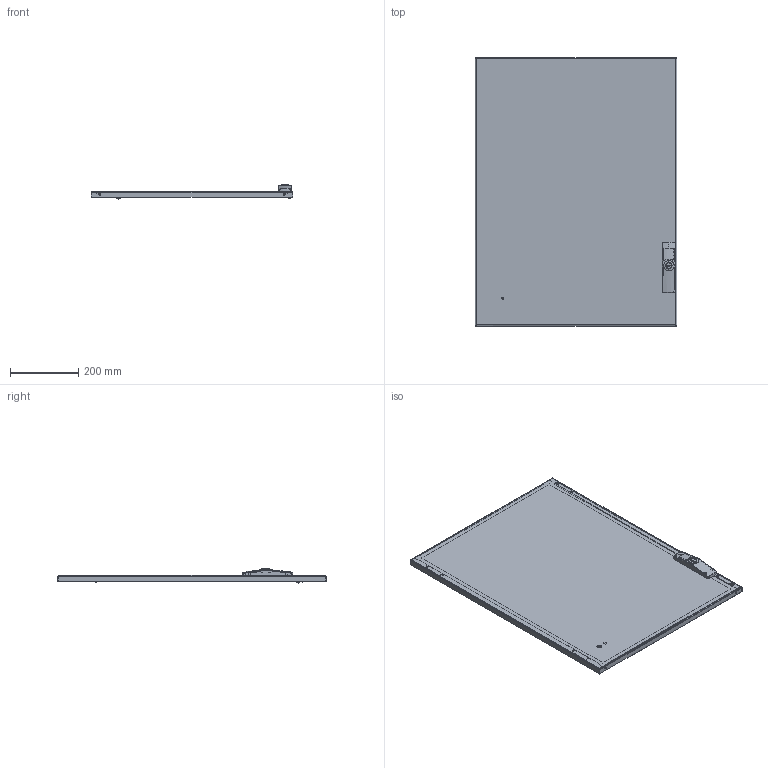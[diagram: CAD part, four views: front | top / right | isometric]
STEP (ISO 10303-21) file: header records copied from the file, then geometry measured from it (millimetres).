
FILE_DESCRIPTION (( 'STEP AP203' ), '1' );
FILE_NAME ('98420.step', '2013-04-04T08:33:41', ( '' ), ( '' ), 'SwSTEP 2.0', 'SolidWorks 2010', '' );
FILE_SCHEMA (( 'CONFIG_CONTROL_DESIGN' ));
Length unit declared in the file: inch
Products named in the file (27): 60127138_60127138; 87576035_87576035; 60127139_60127139; 11158132_THIKNESS .155 FIXED; 60127173_60127173; 60127172_60127172; 87931527_87931527; 60100041_60100041; 60127182_60127182; 60127208; 60127175_60127175; 60127216_60127216; 60127140_60127140; 60127277_60127277; 51232001_51232001; 98420; 11458936; 89065628; 60127101_60127101; 87931368_SLEEVE; 89065630_FIP GASKET; 60127424_60127424; 87798945_60127373; 60127207; 60127212; 11359495; 11359489_11359489
Assembly tree (34 placements, depth 4):
  98420
    11458936
      89065628
      60100041_60100041
        87931527_87931527
        87931368_SLEEVE
      60127172_60127172  x2
      60127101_60127101  x2
      89065630_FIP GASKET
    60127277_60127277  x2
      60127173_60127173
      51232001_51232001
    11359495
      60127216_60127216  x2
        60127138_60127138
        87576035_87576035
        60127140_60127140
      11158132_THIKNESS .155 FIXED  x4
      60127175_60127175
      60127139_60127139  x2
      11359489_11359489
    60127424_60127424
      60127208
      87798945_60127373
      60127212
      60127207
      60127182_60127182
Bounding box: 591.79 x 785.7 x 41.43 mm (x, y, z)
Volume: 922216.7 mm3; surface area: 1177513.3 mm2
Topology: 31 solids, 31 shells, 1491 faces, 3747 edges, 2329 vertices
Faces by surface type: plane 615, cylinder 516, bspline 123, torus 121, cone 101, sphere 15
Entity records: 39706 total; most frequent: CARTESIAN_POINT 10571, ORIENTED_EDGE 5614, DIRECTION 5212, EDGE_CURVE 2807, AXIS2_PLACEMENT_3D 1864, VERTEX_POINT 1766, LINE 1484, VECTOR 1484
